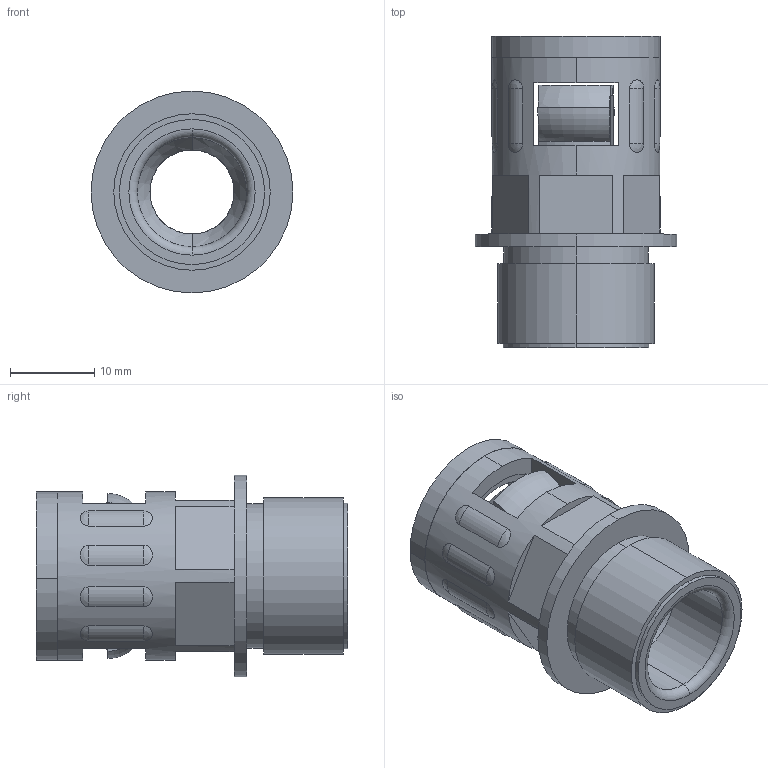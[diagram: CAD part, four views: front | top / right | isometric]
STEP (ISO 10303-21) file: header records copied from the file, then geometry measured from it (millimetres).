
FILE_DESCRIPTION (( 'STEP AP203' ), '1' );
FILE_NAME ('WQG-P11-AD13.0.STEP', '2020-03-12T01:13:59', ( '' ), ( '' ), 'SwSTEP 2.0', 'SolidWorks 2016', '' );
FILE_SCHEMA (( 'CONFIG_CONTROL_DESIGN' ));
Length unit declared in the file: millimetre
Products named in the file (4): GFD-AD13.0; NSK-AD13.0; WQG-P11-AD13.0; WQG-P11-AD13.0-01
Assembly tree (3 placements, depth 2):
  WQG-P11-AD13.0
    WQG-P11-AD13.0-01
    GFD-AD13.0
    NSK-AD13.0
Bounding box: 24 x 37 x 24 mm (x, y, z)
Volume: 4668.4 mm3; surface area: 7275.7 mm2
Topology: 2 solids, 5 shells, 183 faces, 485 edges, 304 vertices
Faces by surface type: cone 59, plane 54, cylinder 34, torus 20, sphere 16
Entity records: 6347 total; most frequent: CARTESIAN_POINT 1511, DIRECTION 981, ORIENTED_EDGE 898, EDGE_CURVE 453, AXIS2_PLACEMENT_3D 406, VERTEX_POINT 288, CIRCLE 216, EDGE_LOOP 207
